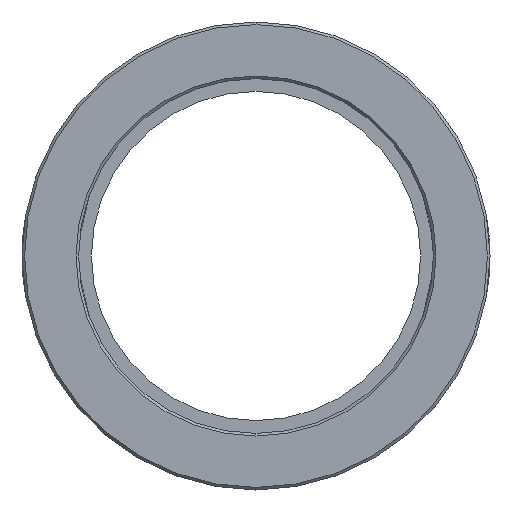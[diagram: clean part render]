
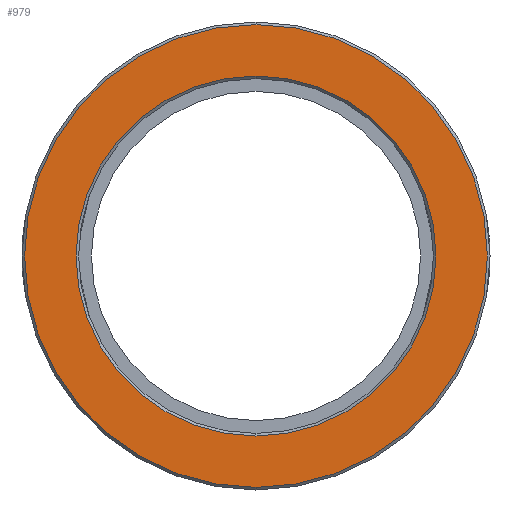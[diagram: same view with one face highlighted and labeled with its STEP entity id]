
A CAD part, left-side view. The second image highlights one B-rep face of the part: STEP entity #979.
In plain terms, the highlighted planar face has unit normal (-1, 0, 0).
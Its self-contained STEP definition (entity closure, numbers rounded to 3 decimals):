
#11 = VERTEX_POINT ( 'NONE', #823 ) ;
#39 = EDGE_CURVE ( 'NONE', #1423, #239, #622, .T. ) ;
#119 = AXIS2_PLACEMENT_3D ( 'NONE', #666, #257, #664 ) ;
#155 = EDGE_CURVE ( 'NONE', #679, #11, #409, .T. ) ;
#215 = CIRCLE ( 'NONE', #119, 35. ) ;
#224 = DIRECTION ( 'NONE',  ( -1., 0., 0. ) ) ;
#239 = VERTEX_POINT ( 'NONE', #1368 ) ;
#251 = CIRCLE ( 'NONE', #351, 45. ) ;
#252 = EDGE_CURVE ( 'NONE', #239, #1423, #251, .T. ) ;
#257 = DIRECTION ( 'NONE',  ( 1., 0., 0. ) ) ;
#337 = EDGE_CURVE ( 'NONE', #11, #679, #215, .T. ) ;
#339 = PLANE ( 'NONE',  #1494 ) ;
#344 = CARTESIAN_POINT ( 'NONE',  ( 0., 0., 0. ) ) ;
#349 = DIRECTION ( 'NONE',  ( 0., 0., -1. ) ) ;
#351 = AXIS2_PLACEMENT_3D ( 'NONE', #1267, #1361, #1399 ) ;
#367 = CARTESIAN_POINT ( 'NONE',  ( 0., 34.5, 0. ) ) ;
#379 = ORIENTED_EDGE ( 'NONE', *, *, #252, .T. ) ;
#409 = CIRCLE ( 'NONE', #473, 35. ) ;
#442 = ORIENTED_EDGE ( 'NONE', *, *, #39, .T. ) ;
#467 = EDGE_LOOP ( 'NONE', ( #379, #442 ) ) ;
#473 = AXIS2_PLACEMENT_3D ( 'NONE', #1541, #624, #1537 ) ;
#509 = EDGE_LOOP ( 'NONE', ( #1391, #642 ) ) ;
#622 = CIRCLE ( 'NONE', #1105, 45. ) ;
#624 = DIRECTION ( 'NONE',  ( 1., 0., 0. ) ) ;
#642 = ORIENTED_EDGE ( 'NONE', *, *, #155, .T. ) ;
#649 = CARTESIAN_POINT ( 'NONE',  ( 0., 0., -35. ) ) ;
#664 = DIRECTION ( 'NONE',  ( 0., 0., -1. ) ) ;
#666 = CARTESIAN_POINT ( 'NONE',  ( 0., 0., 0. ) ) ;
#679 = VERTEX_POINT ( 'NONE', #649 ) ;
#757 = DIRECTION ( 'NONE',  ( 1., 0., 0. ) ) ;
#823 = CARTESIAN_POINT ( 'NONE',  ( 0., 0., 35. ) ) ;
#979 = ADVANCED_FACE ( 'NONE', ( #1029, #1187 ), #339, .F. ) ;
#1023 = CARTESIAN_POINT ( 'NONE',  ( 0., 0., 45. ) ) ;
#1029 = FACE_BOUND ( 'NONE', #509, .T. ) ;
#1105 = AXIS2_PLACEMENT_3D ( 'NONE', #344, #224, #349 ) ;
#1187 = FACE_OUTER_BOUND ( 'NONE', #467, .T. ) ;
#1267 = CARTESIAN_POINT ( 'NONE',  ( 0., 0., 0. ) ) ;
#1361 = DIRECTION ( 'NONE',  ( -1., 0., 0. ) ) ;
#1368 = CARTESIAN_POINT ( 'NONE',  ( 0., 0., -45. ) ) ;
#1391 = ORIENTED_EDGE ( 'NONE', *, *, #337, .T. ) ;
#1399 = DIRECTION ( 'NONE',  ( 0., 0., -1. ) ) ;
#1423 = VERTEX_POINT ( 'NONE', #1023 ) ;
#1494 = AXIS2_PLACEMENT_3D ( 'NONE', #367, #757, #1532 ) ;
#1532 = DIRECTION ( 'NONE',  ( 0., 0., -1. ) ) ;
#1537 = DIRECTION ( 'NONE',  ( 0., 0., -1. ) ) ;
#1541 = CARTESIAN_POINT ( 'NONE',  ( 0., 0., 0. ) ) ;
